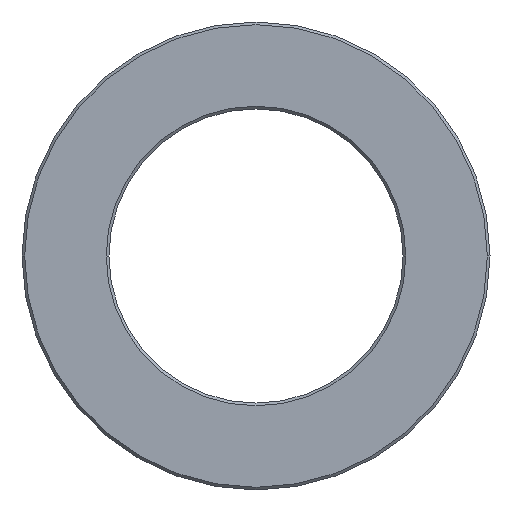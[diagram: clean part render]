
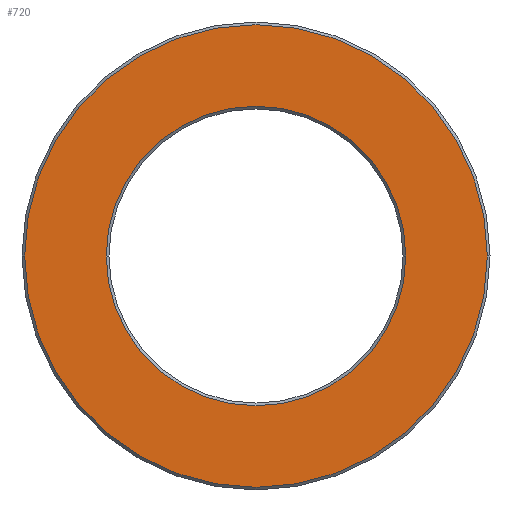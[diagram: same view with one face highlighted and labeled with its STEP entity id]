
A CAD part, left-side view. The second image highlights one B-rep face of the part: STEP entity #720.
In plain terms, the highlighted planar face has unit normal (-1, 0, 0).
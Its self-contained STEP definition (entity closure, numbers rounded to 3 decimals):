
#55 = DIRECTION ( 'NONE',  ( 0., -1., 0. ) ) ;
#57 = PLANE ( 'NONE',  #609 ) ;
#58 = FACE_OUTER_BOUND ( 'NONE', #255, .T. ) ;
#60 = CARTESIAN_POINT ( 'NONE',  ( -136., 11., 0. ) ) ;
#63 = DIRECTION ( 'NONE',  ( -1., 0., 0. ) ) ;
#65 = FACE_BOUND ( 'NONE', #373, .T. ) ;
#82 = ORIENTED_EDGE ( 'NONE', *, *, #749, .T. ) ;
#85 = ORIENTED_EDGE ( 'NONE', *, *, #682, .T. ) ;
#91 = ORIENTED_EDGE ( 'NONE', *, *, #681, .T. ) ;
#107 = ORIENTED_EDGE ( 'NONE', *, *, #709, .T. ) ;
#150 = DIRECTION ( 'NONE',  ( 1., 0., 0. ) ) ;
#152 = DIRECTION ( 'NONE',  ( 0., -1., 0. ) ) ;
#156 = CARTESIAN_POINT ( 'NONE',  ( -136., 0., 0. ) ) ;
#255 = EDGE_LOOP ( 'NONE', ( #85, #82 ) ) ;
#258 = DIRECTION ( 'NONE',  ( 0., -1., 0. ) ) ;
#260 = DIRECTION ( 'NONE',  ( -1., 0., 0. ) ) ;
#261 = CARTESIAN_POINT ( 'NONE',  ( -136., 0., 0. ) ) ;
#262 = DIRECTION ( 'NONE',  ( 0., -1., 0. ) ) ;
#263 = DIRECTION ( 'NONE',  ( 1., 0., 0. ) ) ;
#264 = CARTESIAN_POINT ( 'NONE',  ( -136., 0., 0. ) ) ;
#280 = CARTESIAN_POINT ( 'NONE',  ( -136., -17.3, 0. ) ) ;
#296 = CARTESIAN_POINT ( 'NONE',  ( -136., 11.2, 0. ) ) ;
#297 = CARTESIAN_POINT ( 'NONE',  ( -136., -11.2, 0. ) ) ;
#321 = VERTEX_POINT ( 'NONE', #354 ) ;
#339 = VERTEX_POINT ( 'NONE', #297 ) ;
#340 = VERTEX_POINT ( 'NONE', #296 ) ;
#350 = VERTEX_POINT ( 'NONE', #280 ) ;
#354 = CARTESIAN_POINT ( 'NONE',  ( -136., 17.3, 0. ) ) ;
#373 = EDGE_LOOP ( 'NONE', ( #107, #91 ) ) ;
#453 = DIRECTION ( 'NONE',  ( 0., -1., 0. ) ) ;
#454 = DIRECTION ( 'NONE',  ( -1., 0., 0. ) ) ;
#455 = CARTESIAN_POINT ( 'NONE',  ( -136., 0., 0. ) ) ;
#523 = AXIS2_PLACEMENT_3D ( 'NONE', #156, #150, #152 ) ;
#531 = CIRCLE ( 'NONE', #523, 11.2 ) ;
#572 = CIRCLE ( 'NONE', #575, 11.2 ) ;
#573 = CIRCLE ( 'NONE', #579, 17.3 ) ;
#575 = AXIS2_PLACEMENT_3D ( 'NONE', #264, #263, #262 ) ;
#579 = AXIS2_PLACEMENT_3D ( 'NONE', #261, #260, #258 ) ;
#609 = AXIS2_PLACEMENT_3D ( 'NONE', #60, #63, #55 ) ;
#644 = CIRCLE ( 'NONE', #645, 17.3 ) ;
#645 = AXIS2_PLACEMENT_3D ( 'NONE', #455, #454, #453 ) ;
#681 = EDGE_CURVE ( 'NONE', #340, #339, #572, .T. ) ;
#682 = EDGE_CURVE ( 'NONE', #321, #350, #573, .T. ) ;
#709 = EDGE_CURVE ( 'NONE', #339, #340, #531, .T. ) ;
#720 = ADVANCED_FACE ( 'NONE', ( #65, #58 ), #57, .T. ) ;
#749 = EDGE_CURVE ( 'NONE', #350, #321, #644, .T. ) ;
